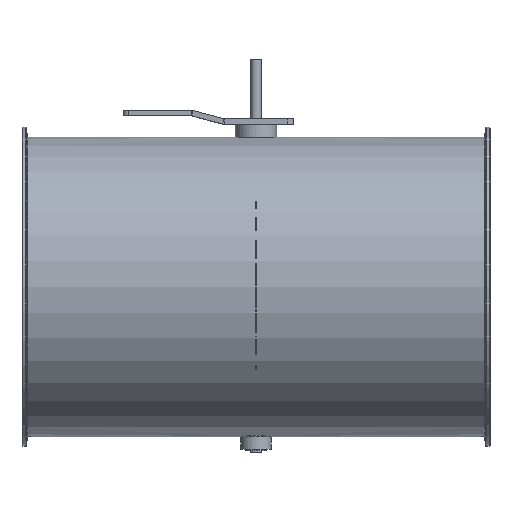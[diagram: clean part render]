
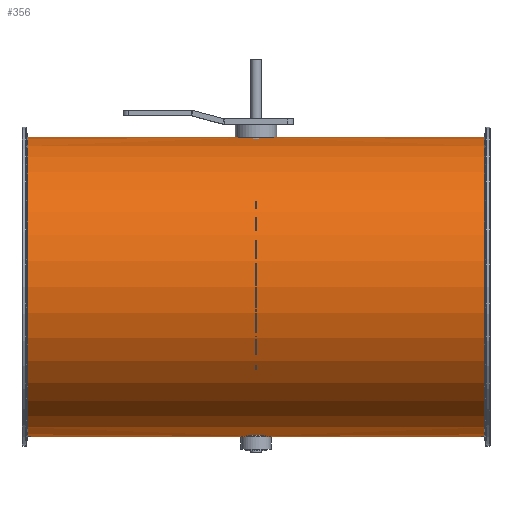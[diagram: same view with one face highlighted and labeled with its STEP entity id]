
A CAD part, top view. The second image highlights one B-rep face of the part: STEP entity #356.
In plain terms, the highlighted cylindrical face has radius 140.8 mm (diameter 281.6 mm), a full revolution.
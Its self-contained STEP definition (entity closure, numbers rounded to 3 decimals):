
#199=B_SPLINE_CURVE_WITH_KNOTS('',3,(#1624,#1625,#1626,#1627,#1628,#1629,
#1630,#1631,#1632,#1633,#1634,#1635,#1636,#1637,#1638,#1639,#1640,#1641),
 .UNSPECIFIED.,.T.,.F.,(2,2,2,2,2,2,2,2,2,2,2),(-0.125,0.,0.125,
0.25,0.375,0.5,0.625,0.75,0.875,
1.,1.125),.UNSPECIFIED.);
#200=B_SPLINE_CURVE_WITH_KNOTS('',3,(#1643,#1644,#1645,#1646,#1647,#1648,
#1649,#1650,#1651,#1652,#1653,#1654,#1655,#1656,#1657,#1658,#1659,#1660),
 .UNSPECIFIED.,.T.,.F.,(2,2,2,2,2,2,2,2,2,2,2),(-0.125,0.,0.125,
0.25,0.375,0.5,0.625,0.75,0.875,
1.,1.125),.UNSPECIFIED.);
#220=CYLINDRICAL_SURFACE('',#1145,140.8);
#253=FACE_BOUND('',#499,.T.);
#254=FACE_BOUND('',#500,.T.);
#255=FACE_BOUND('',#501,.T.);
#256=FACE_BOUND('',#502,.T.);
#356=ADVANCED_FACE('',(#253,#254,#255,#256),#220,.T.);
#499=EDGE_LOOP('',(#631));
#500=EDGE_LOOP('',(#632));
#501=EDGE_LOOP('',(#633));
#502=EDGE_LOOP('',(#634));
#631=ORIENTED_EDGE('',*,*,#955,.T.);
#632=ORIENTED_EDGE('',*,*,#956,.F.);
#633=ORIENTED_EDGE('',*,*,#957,.F.);
#634=ORIENTED_EDGE('',*,*,#958,.T.);
#865=VERTEX_POINT('',#1623);
#866=VERTEX_POINT('',#1642);
#867=VERTEX_POINT('',#1661);
#868=VERTEX_POINT('',#1663);
#955=EDGE_CURVE('',#865,#865,#1073,.T.);
#956=EDGE_CURVE('',#866,#866,#199,.T.);
#957=EDGE_CURVE('',#867,#867,#200,.T.);
#958=EDGE_CURVE('',#868,#868,#1074,.T.);
#1073=CIRCLE('',#1143,140.8);
#1074=CIRCLE('',#1144,140.8);
#1143=AXIS2_PLACEMENT_3D('',#1622,#1292,#1293);
#1144=AXIS2_PLACEMENT_3D('',#1662,#1294,#1295);
#1145=AXIS2_PLACEMENT_3D('',#1664,#1296,#1297);
#1292=DIRECTION('',(-1.,0.,0.));
#1293=DIRECTION('',(0.,0.,-1.));
#1294=DIRECTION('',(1.,0.,0.));
#1295=DIRECTION('',(0.,0.,1.));
#1296=DIRECTION('',(1.,0.,0.));
#1297=DIRECTION('',(0.,0.,-1.));
#1622=CARTESIAN_POINT('',(214.804,-51.,125.));
#1623=CARTESIAN_POINT('',(214.804,-51.,-15.8));
#1624=CARTESIAN_POINT('',(2.643,89.444,115.));
#1625=CARTESIAN_POINT('',(-2.643,89.444,115.));
#1626=CARTESIAN_POINT('',(-5.227,89.53,116.085));
#1627=CARTESIAN_POINT('',(-8.916,89.715,119.774));
#1628=CARTESIAN_POINT('',(-9.999,89.8,122.385));
#1629=CARTESIAN_POINT('',(-10.001,89.8,127.604));
#1630=CARTESIAN_POINT('',(-8.941,89.716,130.2));
#1631=CARTESIAN_POINT('',(-5.208,89.529,133.936));
#1632=CARTESIAN_POINT('',(-2.614,89.445,134.999));
#1633=CARTESIAN_POINT('',(2.607,89.444,135.001));
#1634=CARTESIAN_POINT('',(5.219,89.529,133.92));
#1635=CARTESIAN_POINT('',(8.91,89.715,130.236));
#1636=CARTESIAN_POINT('',(9.997,89.8,127.65));
#1637=CARTESIAN_POINT('',(10.003,89.8,122.37));
#1638=CARTESIAN_POINT('',(8.921,89.715,119.781));
#1639=CARTESIAN_POINT('',(5.233,89.53,116.088));
#1640=CARTESIAN_POINT('',(2.643,89.444,115.));
#1641=CARTESIAN_POINT('',(-2.643,89.444,115.));
#1642=CARTESIAN_POINT('',(0.,89.444,115.));
#1643=CARTESIAN_POINT('',(-2.643,-191.444,115.));
#1644=CARTESIAN_POINT('',(2.643,-191.444,115.));
#1645=CARTESIAN_POINT('',(5.227,-191.53,116.085));
#1646=CARTESIAN_POINT('',(8.916,-191.715,119.774));
#1647=CARTESIAN_POINT('',(9.999,-191.8,122.385));
#1648=CARTESIAN_POINT('',(10.001,-191.8,127.604));
#1649=CARTESIAN_POINT('',(8.941,-191.716,130.2));
#1650=CARTESIAN_POINT('',(5.208,-191.529,133.936));
#1651=CARTESIAN_POINT('',(2.614,-191.445,134.999));
#1652=CARTESIAN_POINT('',(-2.607,-191.444,135.001));
#1653=CARTESIAN_POINT('',(-5.219,-191.529,133.92));
#1654=CARTESIAN_POINT('',(-8.91,-191.715,130.236));
#1655=CARTESIAN_POINT('',(-9.997,-191.8,127.65));
#1656=CARTESIAN_POINT('',(-10.003,-191.8,122.37));
#1657=CARTESIAN_POINT('',(-8.921,-191.715,119.781));
#1658=CARTESIAN_POINT('',(-5.233,-191.53,116.088));
#1659=CARTESIAN_POINT('',(-2.643,-191.444,115.));
#1660=CARTESIAN_POINT('',(2.643,-191.444,115.));
#1661=CARTESIAN_POINT('',(0.,-191.444,115.));
#1662=CARTESIAN_POINT('',(-214.804,-51.,125.));
#1663=CARTESIAN_POINT('',(-214.804,-51.,265.8));
#1664=CARTESIAN_POINT('',(-220.,-51.,125.));
